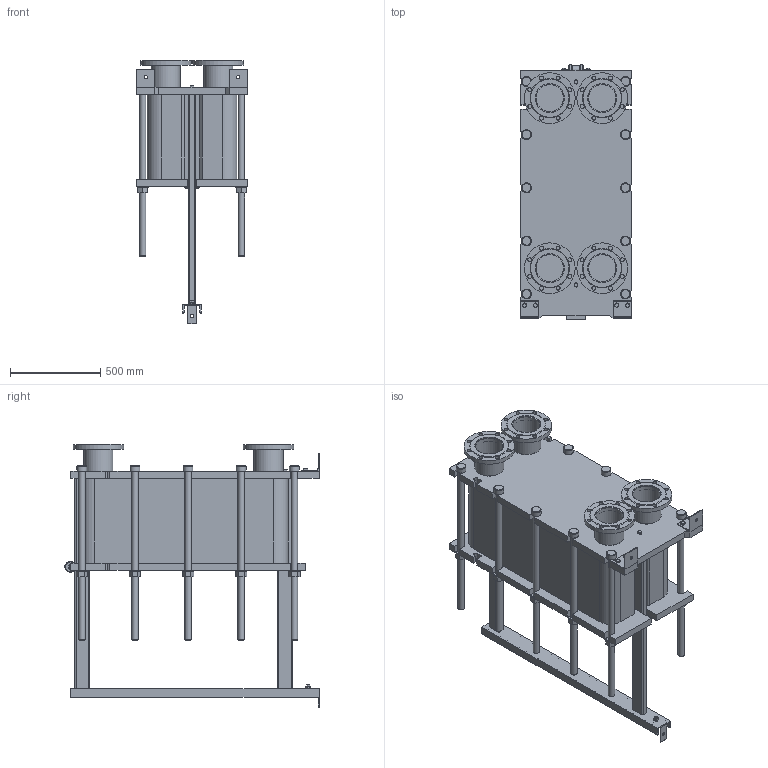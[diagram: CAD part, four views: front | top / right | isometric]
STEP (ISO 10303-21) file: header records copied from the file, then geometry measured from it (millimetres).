
FILE_DESCRIPTION(/* description */ (''),/* implementation_level */ '2;1');
FILE_NAME(/* name */ 'C:\Users\zhuro\Desktop\ENCO\TO\ЭН-041\ЭН-0,5-041-136-1.stp',/* time_stamp */ '2022-06-06T11:00:36+03:00',/* author */ ('zhuro'),/* organization */ (''),/* preprocessor_version */ 'ST-DEVELOPER v18.1',/* originating_system */ 'Autodesk Inventor 2022',/* authorisation */ '');
FILE_SCHEMA (('AUTOMOTIVE_DESIGN { 1 0 10303 214 3 1 1 }'));
Length unit declared in the file: millimetre
Products named in the file (1): ЭН-0,5-041-136-1
Bounding box: 610 x 1406.5 x 1460 mm (x, y, z)
Volume: 346898535.2 mm3; surface area: 9818281.6 mm2
Topology: 52 solids, 52 shells, 711 faces, 1696 edges, 1094 vertices
Faces by surface type: plane 487, cylinder 177, cone 41, torus 6
Full cylindrical faces by diameter (mm): 8 x4, 10 x2, 16 x8, 18 x3, 22 x32, 36 x24, 50 x1, 54 x10, 60 x12, 151 x4, 161 x8, 280 x4
Entity records: 22667 total; most frequent: CARTESIAN_POINT 5230, DIRECTION 3644, ORIENTED_EDGE 3392, EDGE_CURVE 1696, AXIS2_PLACEMENT_3D 1272, LINE 1100, VECTOR 1100, VERTEX_POINT 1094
